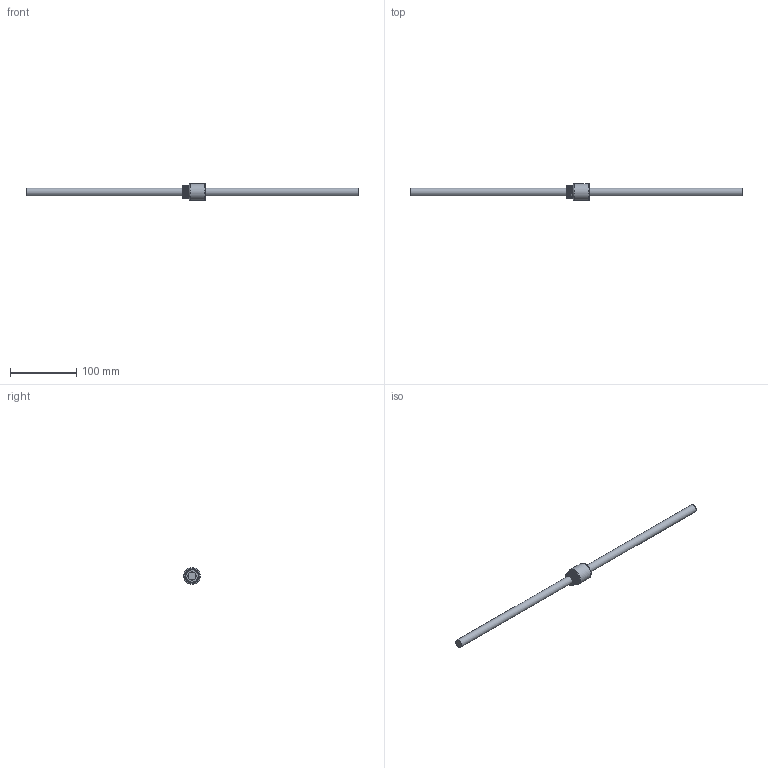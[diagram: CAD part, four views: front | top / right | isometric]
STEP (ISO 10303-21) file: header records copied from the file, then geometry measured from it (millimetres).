
FILE_DESCRIPTION (( 'STEP AP203' ), '1' );
FILE_NAME ('BSHR01204-3.5.step', '2024-05-31T07:16:41', ( '' ), ( '' ), 'SwSTEP 2.0', 'SolidWorks 2022', '' );
FILE_SCHEMA (( 'CONFIG_CONTROL_DESIGN' ));
Length unit declared in the file: millimetre
Products named in the file (1): BSHR01204-3.5
Bounding box: 500 x 25.5 x 25.5 mm (x, y, z)
Volume: 67401.9 mm3; surface area: 23996.9 mm2
Topology: 2 solids, 2 shells, 20 faces, 43 edges, 29 vertices
Faces by surface type: plane 6, cylinder 6, cone 3, bspline 3, torus 2
Full cylindrical faces by diameter (mm): 3 x1, 12 x1, 12.6 x1, 18.5 x1, 25.5 x1
Entity records: 2176 total; most frequent: CARTESIAN_POINT 1776, DIRECTION 62, ORIENTED_EDGE 54, EDGE_LOOP 32, AXIS2_PLACEMENT_3D 31, EDGE_CURVE 27, FACE_OUTER_BOUND 26, VERTEX_POINT 23
